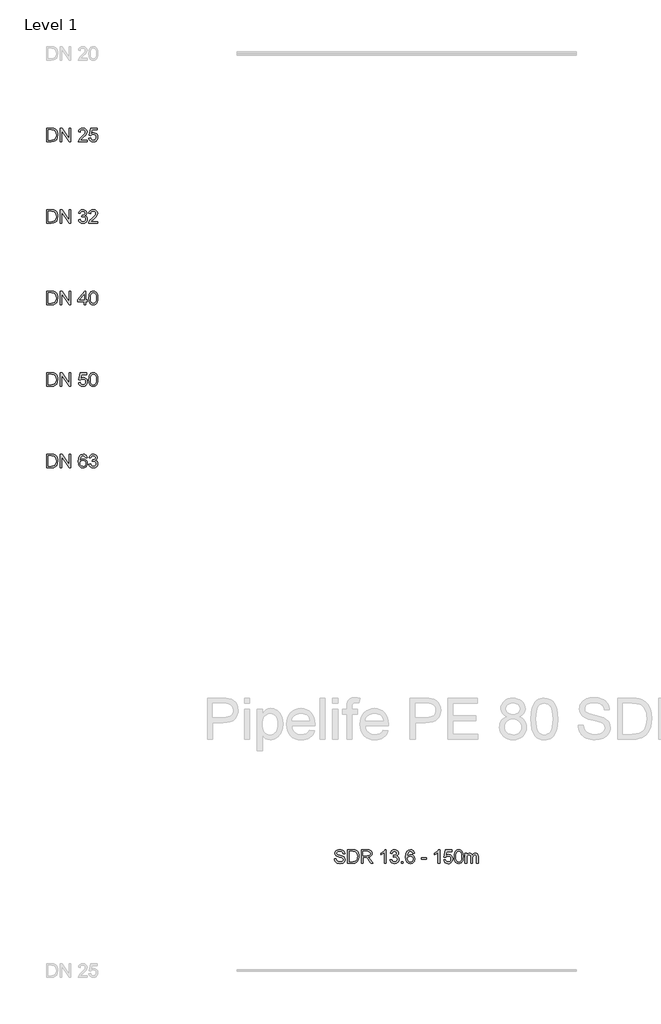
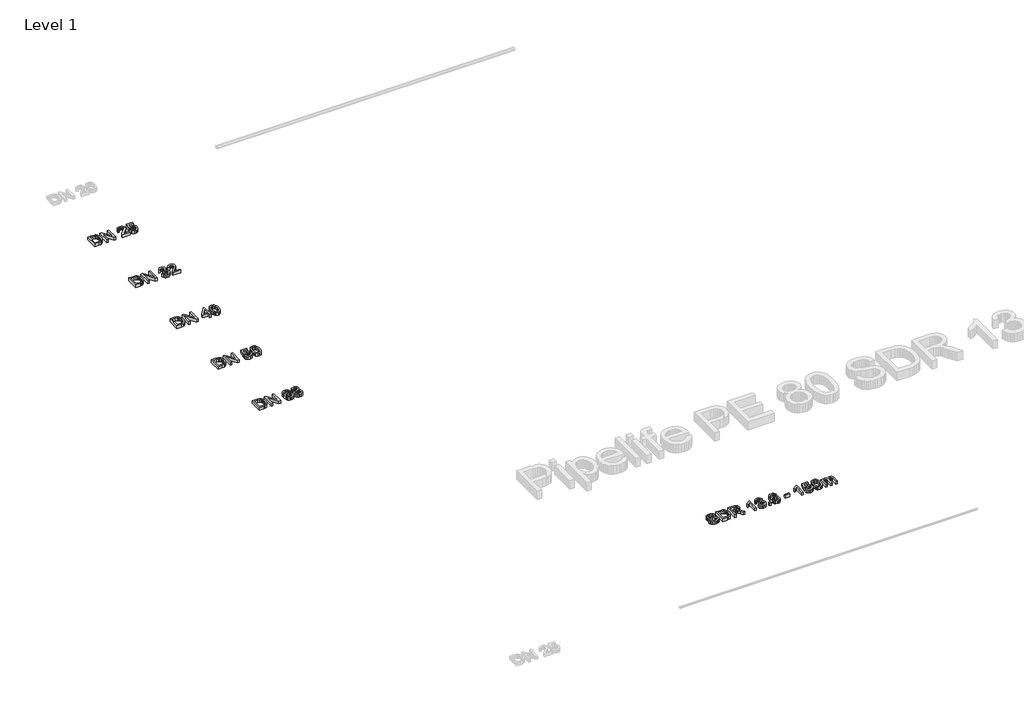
# One storey, part 2 of 6: 6 proxies.
"""IFC4 building model written with IfcOpenShell, lengths in millimetres."""

from ifc_helpers import new_model, si_unit, origin, origin_with_axes, place, context, project, spatial, polyline, outline, extrude, element, save

model = new_model("IFC4")

# Units and contexts
model_context = context("Model", 3, world=origin())
ifc_project = project(units=[si_unit("LENGTHUNIT", "METRE", prefix="MILLI")], contexts=[model_context])

# Site, building, storey
site = spatial("IfcSite", under=ifc_project)
building = spatial("IfcBuilding", under=site)
storey = spatial("IfcBuildingStorey", under=building, Name="Level 1", Elevation=0.0)

# Proxies
placement = place(None, origin())
element("IfcBuildingElementProxy", 1, Name="200mm Arial", ObjectType="200mm Arial", at=placement, inside=storey, context=model_context, shape_type="SweptSolid", body=[
    extrude(outline(polyline([(-19337.4878779, -1913.949573), (-19337.4878779, -1713.0369527), (-19268.17891, -1713.0369527), (-19232.3226782, -1715.9309577), (-19216.3075487, -1721.5105013), (-19202.7940167, -1730.302881), (-19188.90034, -1745.606772), (-19179.0043144, -1764.6385338), (-19173.0814143, -1787.0302846), (-19171.1071142, -1812.4141423), (-19176.4536659, -1852.9547382), (-19190.187927, -1882.2136195), (-19208.5329759, -1900.436041), (-19232.5434074, -1910.5160077), (-19264.8434466, -1913.949573), (-19337.4878779, -1913.949573)]), holes=[polyline([(-19312.3738004, -1888.8354954), (-19267.9336553, -1888.8354954), (-19235.6090907, -1885.2057264), (-19216.9697363, -1874.9540815), (-19208.2448016, -1864.0831685), (-19201.6903707, -1850.0116822), (-19197.5884865, -1832.6783089), (-19196.2211917, -1812.0217348), (-19198.9005989, -1784.6513144), (-19206.9388205, -1764.4423301), (-19218.8152776, -1750.5609162), (-19233.0093913, -1742.1732067), (-19268.6203684, -1738.1510302), (-19312.3738004, -1738.1510302), (-19312.3738004, -1888.8354954)])]), origin_with_axes(), (0.0, 0.0, 1.0), 50.0),
    extrude(outline(polyline([(-19136.5752576, -1913.949573), (-19136.5752576, -1713.0369527), (-19109.6953465, -1713.0369527), (-19004.7263505, -1872.2072292), (-19004.7263505, -1713.0369527), (-18979.612273, -1713.0369527), (-18979.612273, -1913.949573), (-19006.4921841, -1913.949573), (-19111.4611801, -1754.7302454), (-19111.4611801, -1913.949573), (-19136.5752576, -1913.949573)])), origin_with_axes(), (0.0, 0.0, 1.0), 50.0),
    extrude(outline(polyline([(-18866.5989241, -1860.5821582), (-18841.4848465, -1857.4428985), (-18835.8623834, -1873.2250361), (-18827.627958, -1883.8813512), (-18816.3769004, -1889.9514041), (-18801.7045401, -1891.9747551), (-18784.4876627, -1889.1911147), (-18771.19486, -1880.8401934), (-18762.6967859, -1868.3812565), (-18759.8640945, -1853.2735692), (-18762.6722604, -1838.9323028), (-18771.0967581, -1827.3011004), (-18783.8500006, -1819.5939726), (-18799.6444009, -1817.02493), (-18817.2536858, -1819.7717822), (-18814.4577826, -1794.6577047), (-18810.4356061, -1794.9520102), (-18795.3892325, -1793.1493885), (-18781.9370142, -1787.7415231), (-18772.4456588, -1778.5935242), (-18769.2818736, -1765.5705016), (-18771.5750047, -1754.7241141), (-18778.454398, -1745.925603), (-18788.9512976, -1740.0946734), (-18802.0969476, -1738.1510302), (-18815.267123, -1740.1130675), (-18826.0338027, -1745.9991794), (-18833.8942147, -1755.809366), (-18838.3455868, -1769.5436271), (-18863.4596644, -1766.4043674), (-18856.0652363, -1743.8532011), (-18842.9073236, -1727.0164685), (-18824.9056313, -1716.5318316), (-18802.9798644, -1713.0369527), (-18787.1915954, -1714.7598667), (-18772.6909134, -1719.9286087), (-18760.4649685, -1728.0833263), (-18751.5009105, -1738.7641669), (-18746.0010747, -1751.0698196), (-18744.1677961, -1764.0989736), (-18745.9091042, -1776.2390794), (-18751.1330285, -1787.2510138), (-18759.7659927, -1796.6320047), (-18771.7344202, -1803.87928), (-18756.0135963, -1810.2313758), (-18744.3639998, -1821.0471064), (-18737.1535127, -1835.7378608), (-18734.750017, -1853.7150276), (-18739.5570084, -1878.191443), (-18753.9779826, -1898.645682), (-18775.744334, -1912.478045), (-18802.5874569, -1917.0888326), (-18826.8676686, -1913.1524953), (-18846.6351945, -1901.3434833), (-18860.3817184, -1883.2804773), (-18866.5989241, -1860.5821582)])), origin_with_axes(), (0.0, 0.0, 1.0), 50.0),
    extrude(outline(polyline([(-18584.0655518, -1888.8354954), (-18584.0655518, -1913.949573), (-18715.9144588, -1913.949573), (-18713.2166575, -1896.6345937), (-18697.9618175, -1869.9754118), (-18666.5201696, -1840.8636832), (-18623.1591451, -1799.0232377), (-18615.028953, -1784.6022634), (-18612.318889, -1770.5736967), (-18614.8756689, -1757.9982638), (-18622.5460085, -1747.5442838), (-18634.3366264, -1740.4993436), (-18649.2542413, -1738.1510302), (-18664.9198829, -1740.4441613), (-18677.0906456, -1747.3235546), (-18684.9449262, -1758.2496499), (-18687.6611216, -1772.6828868), (-18712.7751992, -1769.5436271), (-18706.6867521, -1745.2511527), (-18693.5227081, -1727.5069778), (-18673.96978, -1716.6544589), (-18648.7146811, -1713.0369527), (-18623.2756411, -1717.0591291), (-18603.7595012, -1729.1256586), (-18591.3434839, -1747.1518763), (-18587.2048115, -1769.0531178), (-18591.6684463, -1792.8673456), (-18606.5063535, -1817.4909138), (-18642.4852126, -1851.9001431), (-18671.376212, -1876.0577275), (-18682.7069774, -1888.8354954), (-18584.0655518, -1888.8354954)])), origin_with_axes(), (0.0, 0.0, 1.0), 50.0),
])
element("IfcBuildingElementProxy", 2, Name="200mm Arial", ObjectType="200mm Arial", at=placement, inside=storey, context=model_context, shape_type="SweptSolid", body=[
    extrude(outline(polyline([(-19337.4878779, -3113.949573), (-19337.4878779, -2913.0369527), (-19268.17891, -2913.0369527), (-19232.3226782, -2915.9309577), (-19216.3075487, -2921.5105013), (-19202.7940167, -2930.302881), (-19188.90034, -2945.606772), (-19179.0043144, -2964.6385338), (-19173.0814143, -2987.0302846), (-19171.1071142, -3012.4141423), (-19176.4536659, -3052.9547382), (-19190.187927, -3082.2136195), (-19208.5329759, -3100.436041), (-19232.5434074, -3110.5160077), (-19264.8434466, -3113.949573), (-19337.4878779, -3113.949573)]), holes=[polyline([(-19312.3738004, -3088.8354954), (-19267.9336553, -3088.8354954), (-19235.6090907, -3085.2057264), (-19216.9697363, -3074.9540815), (-19208.2448016, -3064.0831685), (-19201.6903707, -3050.0116822), (-19197.5884865, -3032.6783089), (-19196.2211917, -3012.0217348), (-19198.9005989, -2984.6513144), (-19206.9388205, -2964.4423301), (-19218.8152776, -2950.5609162), (-19233.0093913, -2942.1732067), (-19268.6203684, -2938.1510302), (-19312.3738004, -2938.1510302), (-19312.3738004, -3088.8354954)])]), origin_with_axes(), (0.0, 0.0, 1.0), 50.0),
    extrude(outline(polyline([(-19136.5752576, -3113.949573), (-19136.5752576, -2913.0369527), (-19109.6953465, -2913.0369527), (-19004.7263505, -3072.2072292), (-19004.7263505, -2913.0369527), (-18979.612273, -2913.0369527), (-18979.612273, -3113.949573), (-19006.4921841, -3113.949573), (-19111.4611801, -2954.7302454), (-19111.4611801, -3113.949573), (-19136.5752576, -3113.949573)])), origin_with_axes(), (0.0, 0.0, 1.0), 50.0),
    extrude(outline(polyline([(-18784.9781721, -3113.949573), (-18784.9781721, -3066.8606776), (-18876.0167031, -3066.8606776), (-18876.0167031, -3041.7466), (-18778.6996527, -2916.1762123), (-18759.8640945, -2916.1762123), (-18759.8640945, -3041.7466), (-18734.750017, -3041.7466), (-18734.750017, -3066.8606776), (-18759.8640945, -3066.8606776), (-18759.8640945, -3113.949573), (-18784.9781721, -3113.949573)]), holes=[polyline([(-18784.9781721, -3041.7466), (-18784.9781721, -2964.1480245), (-18845.1146156, -3041.7466), (-18784.9781721, -3041.7466)])]), origin_with_axes(), (0.0, 0.0, 1.0), 50.0),
    extrude(outline(polyline([(-18712.7751992, -3015.1119436), (-18710.9296578, -2982.9529258), (-18705.3930338, -2957.3054194), (-18696.2205094, -2937.7770168), (-18683.4672669, -2923.9753106), (-18667.0413358, -2915.7715422), (-18646.8507456, -2913.0369527), (-18631.3751764, -2914.6556334), (-18617.5182879, -2919.5116758), (-18605.930005, -2927.4150073), (-18597.2602527, -2938.1755557), (-18585.4880288, -2967.9004209), (-18580.9262921, -3015.1119436), (-18582.7534393, -3047.0870203), (-18588.2348811, -3072.6732131), (-18597.3522232, -3092.2200098), (-18610.0870716, -3106.0768983), (-18626.5497909, -3114.335849), (-18646.8507456, -3117.0888326), (-18672.9458418, -3112.3063667), (-18692.7624186, -3097.9589689), (-18701.5180101, -3082.8298218), (-18707.772004, -3063.9789353), (-18712.7751992, -3015.1119436)]), holes=[polyline([(-18687.6611216, -3015.0628927), (-18684.7180657, -3054.5672876), (-18675.8888978, -3077.4311536), (-18662.7432478, -3088.3388547), (-18646.8507456, -3091.9747551), (-18630.9582434, -3088.326592), (-18617.8125935, -3077.3821026), (-18608.9834256, -3054.5059739), (-18606.0403696, -3015.0628927), (-18608.8853237, -2976.4475459), (-18617.420186, -2953.4058703), (-18630.5413105, -2941.9647402), (-18647.1450512, -2938.1510302), (-18662.8658751, -2941.5110191), (-18675.4964903, -2951.5909857), (-18684.6199638, -2976.0674012), (-18687.6611216, -3015.0628927)])]), origin_with_axes(), (0.0, 0.0, 1.0), 50.0),
])
element("IfcBuildingElementProxy", 3, Name="200mm Arial", ObjectType="200mm Arial", at=placement, inside=storey, context=model_context, shape_type="SweptSolid", body=[
    extrude(outline(polyline([(-19337.4878779, -4313.949573), (-19337.4878779, -4113.0369527), (-19268.17891, -4113.0369527), (-19232.3226782, -4115.9309577), (-19216.3075487, -4121.5105013), (-19202.7940167, -4130.302881), (-19188.90034, -4145.606772), (-19179.0043144, -4164.6385338), (-19173.0814143, -4187.0302846), (-19171.1071142, -4212.4141423), (-19176.4536659, -4252.9547382), (-19190.187927, -4282.2136195), (-19208.5329759, -4300.436041), (-19232.5434074, -4310.5160077), (-19264.8434466, -4313.949573), (-19337.4878779, -4313.949573)]), holes=[polyline([(-19312.3738004, -4288.8354954), (-19267.9336553, -4288.8354954), (-19235.6090907, -4285.2057264), (-19216.9697363, -4274.9540815), (-19208.2448016, -4264.0831685), (-19201.6903707, -4250.0116822), (-19197.5884865, -4232.6783089), (-19196.2211917, -4212.0217348), (-19198.9005989, -4184.6513144), (-19206.9388205, -4164.4423301), (-19218.8152776, -4150.5609162), (-19233.0093913, -4142.1732067), (-19268.6203684, -4138.1510302), (-19312.3738004, -4138.1510302), (-19312.3738004, -4288.8354954)])]), origin_with_axes(), (0.0, 0.0, 1.0), 50.0),
    extrude(outline(polyline([(-19136.5752576, -4313.949573), (-19136.5752576, -4113.0369527), (-19109.6953465, -4113.0369527), (-19004.7263505, -4272.2072292), (-19004.7263505, -4113.0369527), (-18979.612273, -4113.0369527), (-18979.612273, -4313.949573), (-19006.4921841, -4313.949573), (-19111.4611801, -4154.7302454), (-19111.4611801, -4313.949573), (-19136.5752576, -4313.949573)])), origin_with_axes(), (0.0, 0.0, 1.0), 50.0),
    extrude(outline(polyline([(-18866.5989241, -4260.5821582), (-18841.4848465, -4257.4428985), (-18836.8740589, -4272.5199289), (-18828.8297059, -4283.3172655), (-18817.3885758, -4289.8103827), (-18802.5874569, -4291.9747551), (-18784.5857646, -4288.9642541), (-18771.0967581, -4279.9327511), (-18762.6722604, -4265.9225785), (-18759.8640945, -4247.9760685), (-18762.4944508, -4231.0780222), (-18770.3855196, -4218.1531014), (-18783.5986146, -4209.9493329), (-18802.1950494, -4207.2147434), (-18824.2434437, -4211.5802764), (-18838.3455868, -4222.9110419), (-18863.4596644, -4219.7717822), (-18841.4848465, -4116.1762123), (-18744.1677961, -4116.1762123), (-18744.1677961, -4141.2902899), (-18821.1777604, -4141.2902899), (-18831.9199147, -4196.619742), (-18813.979536, -4185.7304349), (-18795.1807661, -4182.1006659), (-18771.7160261, -4186.601089), (-18752.2366745, -4200.1023582), (-18739.1216814, -4220.6792244), (-18734.750017, -4246.4064386), (-18738.6863543, -4271.5205162), (-18750.4953664, -4293.0048247), (-18760.9309523, -4303.5415782), (-18773.1078464, -4311.0678307), (-18787.0260485, -4315.5835821), (-18802.6855588, -4317.0888326), (-18827.3520466, -4313.2199403), (-18847.0030765, -4301.6132634), (-18860.4736888, -4283.6177025), (-18866.5989241, -4260.5821582)])), origin_with_axes(), (0.0, 0.0, 1.0), 50.0),
    extrude(outline(polyline([(-18712.7751992, -4215.1119436), (-18710.9296578, -4182.9529258), (-18705.3930338, -4157.3054194), (-18696.2205094, -4137.7770168), (-18683.4672669, -4123.9753106), (-18667.0413358, -4115.7715422), (-18646.8507456, -4113.0369527), (-18631.3751764, -4114.6556334), (-18617.5182879, -4119.5116758), (-18605.930005, -4127.4150073), (-18597.2602527, -4138.1755557), (-18585.4880288, -4167.9004209), (-18580.9262921, -4215.1119436), (-18582.7534393, -4247.0870203), (-18588.2348811, -4272.6732131), (-18597.3522232, -4292.2200098), (-18610.0870716, -4306.0768983), (-18626.5497909, -4314.335849), (-18646.8507456, -4317.0888326), (-18672.9458418, -4312.3063667), (-18692.7624186, -4297.9589689), (-18701.5180101, -4282.8298218), (-18707.772004, -4263.9789353), (-18712.7751992, -4215.1119436)]), holes=[polyline([(-18687.6611216, -4215.0628927), (-18684.7180657, -4254.5672876), (-18675.8888978, -4277.4311536), (-18662.7432478, -4288.3388547), (-18646.8507456, -4291.9747551), (-18630.9582434, -4288.326592), (-18617.8125935, -4277.3821026), (-18608.9834256, -4254.5059739), (-18606.0403696, -4215.0628927), (-18608.8853237, -4176.4475459), (-18617.420186, -4153.4058703), (-18630.5413105, -4141.9647402), (-18647.1450512, -4138.1510302), (-18662.8658751, -4141.5110191), (-18675.4964903, -4151.5909857), (-18684.6199638, -4176.0674012), (-18687.6611216, -4215.0628927)])]), origin_with_axes(), (0.0, 0.0, 1.0), 50.0),
])
element("IfcBuildingElementProxy", 4, Name="200mm Arial", ObjectType="200mm Arial", at=placement, inside=storey, context=model_context, shape_type="SweptSolid", body=[
    extrude(outline(polyline([(-19337.4878779, -5513.949573), (-19337.4878779, -5313.0369527), (-19268.17891, -5313.0369527), (-19232.3226782, -5315.9309577), (-19216.3075487, -5321.5105013), (-19202.7940167, -5330.302881), (-19188.90034, -5345.606772), (-19179.0043144, -5364.6385338), (-19173.0814143, -5387.0302846), (-19171.1071142, -5412.4141423), (-19176.4536659, -5452.9547382), (-19190.187927, -5482.2136195), (-19208.5329759, -5500.436041), (-19232.5434074, -5510.5160077), (-19264.8434466, -5513.949573), (-19337.4878779, -5513.949573)]), holes=[polyline([(-19312.3738004, -5488.8354954), (-19267.9336553, -5488.8354954), (-19235.6090907, -5485.2057264), (-19216.9697363, -5474.9540815), (-19208.2448016, -5464.0831685), (-19201.6903707, -5450.0116822), (-19197.5884865, -5432.6783089), (-19196.2211917, -5412.0217348), (-19198.9005989, -5384.6513144), (-19206.9388205, -5364.4423301), (-19218.8152776, -5350.5609162), (-19233.0093913, -5342.1732067), (-19268.6203684, -5338.1510302), (-19312.3738004, -5338.1510302), (-19312.3738004, -5488.8354954)])]), origin_with_axes(), (0.0, 0.0, 1.0), 50.0),
    extrude(outline(polyline([(-19136.5752576, -5513.949573), (-19136.5752576, -5313.0369527), (-19109.6953465, -5313.0369527), (-19004.7263505, -5472.2072292), (-19004.7263505, -5313.0369527), (-18979.612273, -5313.0369527), (-18979.612273, -5513.949573), (-19006.4921841, -5513.949573), (-19111.4611801, -5354.7302454), (-19111.4611801, -5513.949573), (-19136.5752576, -5513.949573)])), origin_with_axes(), (0.0, 0.0, 1.0), 50.0),
    extrude(outline(polyline([(-18737.8892767, -5366.4043674), (-18763.0033542, -5369.5436271), (-18772.5192352, -5348.5988789), (-18783.9113143, -5340.7629924), (-18797.6823636, -5338.1510302), (-18820.3438945, -5344.2333458), (-18829.7800677, -5353.8411973), (-18837.4871955, -5367.066555), (-18842.6927257, -5385.7733545), (-18844.6241062, -5411.8255311), (-18834.5502709, -5400.0717013), (-18822.4776101, -5391.7882251), (-18809.0805741, -5386.8770005), (-18795.0336133, -5385.2399256), (-18771.8325221, -5389.7158232), (-18752.3593018, -5403.143516), (-18739.1523382, -5423.6590686), (-18734.750017, -5449.3985455), (-18736.8224189, -5467.3818437), (-18743.0396246, -5484.0530295), (-18752.8865994, -5498.1919608), (-18765.8483083, -5508.5784958), (-18781.3361403, -5514.9612484), (-18798.7614842, -5517.0888326), (-18827.2539447, -5511.4479754), (-18849.9461324, -5494.5254036), (-18858.6051549, -5481.4165418), (-18864.7901709, -5464.6533856), (-18869.7381838, -5420.1641897), (-18864.2444793, -5370.144501), (-18857.3773487, -5351.0667539), (-18847.7633659, -5335.9437382), (-18837.3431084, -5325.9220195), (-18825.2612505, -5318.763649), (-18796.1127338, -5313.0369527), (-18774.0766023, -5316.5808825), (-18756.4305292, -5327.2126722), (-18744.0696942, -5344.0984558), (-18737.8892767, -5366.4043674)]), holes=[polyline([(-18844.6241062, -5449.0061381), (-18838.8115707, -5470.7602267), (-18823.3605269, -5486.554627), (-18800.7235215, -5491.9747551), (-18784.1504376, -5489.1665892), (-18771.1212836, -5480.7420915), (-18762.6783918, -5467.4983397), (-18759.8640945, -5450.2324114), (-18762.6416036, -5433.6593275), (-18770.9741308, -5421.022581), (-18784.224014, -5413.0211476), (-18801.7535911, -5410.3540031), (-18818.3021495, -5413.0211476), (-18832.1406439, -5421.022581), (-18841.5032406, -5433.3527592), (-18844.6241062, -5449.0061381)])]), origin_with_axes(), (0.0, 0.0, 1.0), 50.0),
    extrude(outline(polyline([(-18712.7751992, -5460.5821582), (-18687.6611216, -5457.4428985), (-18682.0386585, -5473.2250361), (-18673.8042331, -5483.8813512), (-18662.5531754, -5489.9514041), (-18647.8808152, -5491.9747551), (-18630.6639378, -5489.1911147), (-18617.3711351, -5480.8401934), (-18608.873061, -5468.3812565), (-18606.0403696, -5453.2735692), (-18608.8485355, -5438.9323028), (-18617.2730332, -5427.3011004), (-18630.0262757, -5419.5939726), (-18645.820676, -5417.02493), (-18663.4299609, -5419.7717822), (-18660.6340577, -5394.6577047), (-18656.6118812, -5394.9520102), (-18641.5655076, -5393.1493885), (-18628.1132893, -5387.7415231), (-18618.6219339, -5378.5935242), (-18615.4581487, -5365.5705016), (-18617.7512798, -5354.7241141), (-18624.6306731, -5345.925603), (-18635.1275727, -5340.0946734), (-18648.2732227, -5338.1510302), (-18661.4433981, -5340.1130675), (-18672.2100778, -5345.9991794), (-18680.0704898, -5355.809366), (-18684.5218619, -5369.5436271), (-18709.6359395, -5366.4043674), (-18702.2415114, -5343.8532011), (-18689.0835987, -5327.0164685), (-18671.0819064, -5316.5318316), (-18649.1561395, -5313.0369527), (-18633.3678705, -5314.7598667), (-18618.8671885, -5319.9286087), (-18606.6412435, -5328.0833263), (-18597.6771856, -5338.7641669), (-18592.1773498, -5351.0698196), (-18590.3440712, -5364.0989736), (-18592.0853793, -5376.2390794), (-18597.3093036, -5387.2510138), (-18605.9422678, -5396.6320047), (-18617.9106953, -5403.87928), (-18602.1898714, -5410.2313758), (-18590.5402749, -5421.0471064), (-18583.3297878, -5435.7378608), (-18580.9262921, -5453.7150276), (-18585.7332835, -5478.191443), (-18600.1542577, -5498.645682), (-18621.9206091, -5512.478045), (-18648.763732, -5517.0888326), (-18673.0439437, -5513.1524953), (-18692.8114695, -5501.3434833), (-18706.5579934, -5483.2804773), (-18712.7751992, -5460.5821582)])), origin_with_axes(), (0.0, 0.0, 1.0), 50.0),
])
element("IfcBuildingElementProxy", 5, Name="200mm Arial", ObjectType="200mm Arial", at=placement, inside=storey, context=model_context, shape_type="SweptSolid", body=[
    extrude(outline(polyline([(-19337.4878779, -713.949573), (-19337.4878779, -513.0369527), (-19268.17891, -513.0369527), (-19232.3226782, -515.9309577), (-19216.3075487, -521.5105013), (-19202.7940167, -530.302881), (-19188.90034, -545.606772), (-19179.0043144, -564.6385338), (-19173.0814143, -587.0302846), (-19171.1071142, -612.4141423), (-19176.4536659, -652.9547382), (-19190.187927, -682.2136195), (-19208.5329759, -700.436041), (-19232.5434074, -710.5160077), (-19264.8434466, -713.949573), (-19337.4878779, -713.949573)]), holes=[polyline([(-19312.3738004, -688.8354954), (-19267.9336553, -688.8354954), (-19235.6090907, -685.2057264), (-19216.9697363, -674.9540815), (-19208.2448016, -664.0831685), (-19201.6903707, -650.0116822), (-19197.5884865, -632.6783089), (-19196.2211917, -612.0217348), (-19198.9005989, -584.6513144), (-19206.9388205, -564.4423301), (-19218.8152776, -550.5609162), (-19233.0093913, -542.1732067), (-19268.6203684, -538.1510302), (-19312.3738004, -538.1510302), (-19312.3738004, -688.8354954)])]), origin_with_axes(), (0.0, 0.0, 1.0), 50.0),
    extrude(outline(polyline([(-19136.5752576, -713.949573), (-19136.5752576, -513.0369527), (-19109.6953465, -513.0369527), (-19004.7263505, -672.2072292), (-19004.7263505, -513.0369527), (-18979.612273, -513.0369527), (-18979.612273, -713.949573), (-19006.4921841, -713.949573), (-19111.4611801, -554.7302454), (-19111.4611801, -713.949573), (-19136.5752576, -713.949573)])), origin_with_axes(), (0.0, 0.0, 1.0), 50.0),
    extrude(outline(polyline([(-18737.8892767, -688.8354954), (-18737.8892767, -713.949573), (-18869.7381838, -713.949573), (-18867.0403825, -696.6345937), (-18851.7855424, -669.9754118), (-18820.3438945, -640.8636832), (-18776.98287, -599.0232377), (-18768.852678, -584.6022634), (-18766.1426139, -570.5736967), (-18768.6993938, -557.9982638), (-18776.3697334, -547.5442838), (-18788.1603513, -540.4993436), (-18803.0779662, -538.1510302), (-18818.7436079, -540.4441613), (-18830.9143705, -547.3235546), (-18838.7686511, -558.2496499), (-18841.4848465, -572.6828868), (-18866.5989241, -569.5436271), (-18860.510477, -545.2511527), (-18847.346433, -527.5069778), (-18827.7935049, -516.6544589), (-18802.538406, -513.0369527), (-18777.099366, -517.0591291), (-18757.5832262, -529.1256586), (-18745.1672088, -547.1518763), (-18741.0285364, -569.0531178), (-18745.4921713, -592.8673456), (-18760.3300784, -617.4909138), (-18796.3089375, -651.9001431), (-18825.1999369, -676.0577275), (-18836.5307023, -688.8354954), (-18737.8892767, -688.8354954)])), origin_with_axes(), (0.0, 0.0, 1.0), 50.0),
    extrude(outline(polyline([(-18712.7751992, -660.5821582), (-18687.6611216, -657.4428985), (-18683.0503339, -672.5199289), (-18675.005981, -683.3172655), (-18663.5648509, -689.8103827), (-18648.763732, -691.9747551), (-18630.7620397, -688.9642541), (-18617.2730332, -679.9327511), (-18608.8485355, -665.9225785), (-18606.0403696, -647.9760685), (-18608.6707259, -631.0780222), (-18616.5617947, -618.1531014), (-18629.7748897, -609.9493329), (-18648.3713245, -607.2147434), (-18670.4197188, -611.5802764), (-18684.5218619, -622.9110419), (-18709.6359395, -619.7717822), (-18687.6611216, -516.1762123), (-18590.3440712, -516.1762123), (-18590.3440712, -541.2902899), (-18667.3540355, -541.2902899), (-18678.0961897, -596.619742), (-18660.1558111, -585.7304349), (-18641.3570412, -582.1006659), (-18617.8923012, -586.601089), (-18598.4129496, -600.1023582), (-18585.2979565, -620.6792244), (-18580.9262921, -646.4064386), (-18584.8626294, -671.5205162), (-18596.6716415, -693.0048247), (-18607.1072274, -703.5415782), (-18619.2841214, -711.0678307), (-18633.2023236, -715.5835821), (-18648.8618339, -717.0888326), (-18673.5283216, -713.2199403), (-18693.1793515, -701.6132634), (-18706.6499639, -683.6177025), (-18712.7751992, -660.5821582)])), origin_with_axes(), (0.0, 0.0, 1.0), 50.0),
])
element("IfcBuildingElementProxy", 6, Name="200mm Arial", ObjectType="200mm Arial", at=placement, inside=storey, context=model_context, shape_type="SweptSolid", body=[
    extrude(outline(polyline([(-15095.306531, -11268.9871574), (-15070.1924535, -11268.9871574), (-15062.0990496, -11294.1257604), (-15053.9688575, -11303.016242), (-15042.3315237, -11310.0182626), (-15028.1067532, -11314.5616053), (-15012.214251, -11316.0760528), (-14985.9720021, -11311.4897906), (-14969.0249048, -11298.8837009), (-14963.4576239, -11282.0347055), (-14967.6269532, -11266.3629325), (-14973.979049, -11260.1641209), (-14984.6966778, -11254.9585907), (-15021.2641481, -11245.3691333), (-15060.6275216, -11232.9837728), (-15073.1293781, -11224.5347497), (-15081.9892028, -11214.2953675), (-15087.2683094, -11202.4863554), (-15089.0280116, -11189.3284427), (-15086.8513765, -11174.6192943), (-15080.3214711, -11160.9034272), (-15069.6099737, -11149.2783562), (-15054.8885625, -11140.8415958), (-15037.217964, -11135.7096419), (-15017.6589046, -11133.9989907), (-14996.4689016, -11135.7893497), (-14977.9276491, -11141.1604268), (-14962.6973345, -11150.0018575), (-14951.4401454, -11162.203277), (-14944.3154975, -11177.0043959), (-14941.4828061, -11193.6449248), (-14966.5968836, -11193.6449248), (-14971.2076713, -11178.6598649), (-14980.8216541, -11167.8441342), (-14995.8435023, -11161.2958347), (-15016.6778859, -11159.1130682), (-15038.0027789, -11161.2713092), (-15052.6322196, -11167.7460324), (-15061.0935055, -11177.274176), (-15063.9139341, -11188.5926788), (-15061.9151086, -11198.2434498), (-15055.9186321, -11206.0057599), (-15041.7429125, -11212.9464668), (-15014.9120523, -11220.0343266), (-14970.4719073, -11232.6404163), (-14956.1551663, -11241.7516271), (-14946.1671702, -11252.9965534), (-14940.2994523, -11266.2525679), (-14938.3435464, -11281.3970434), (-14940.5937579, -11296.878744), (-14947.3443926, -11311.4407397), (-14958.3195387, -11323.973253), (-14973.243285, -11333.3665066), (-14991.189795, -11339.2342244), (-15011.2332324, -11341.1901304), (-15035.8384065, -11339.0809402), (-15056.0903103, -11332.7533699), (-15072.2219358, -11322.1828939), (-15084.4662749, -11307.3449868), (-15092.3266869, -11289.2697181), (-15095.306531, -11268.9871574)])), origin_with_axes(), (0.0, 0.0, 1.0), 50.0),
    extrude(outline(polyline([(-14900.6724301, -11338.0508707), (-14900.6724301, -11137.1382504), (-14831.3634622, -11137.1382504), (-14795.5072304, -11140.0322554), (-14779.4921009, -11145.611799), (-14765.9785689, -11154.4041787), (-14752.0848923, -11169.7080697), (-14742.1888666, -11188.7398315), (-14736.2659665, -11211.1315823), (-14734.2916664, -11236.51544), (-14739.6382181, -11277.0560359), (-14753.3724792, -11306.3149172), (-14771.7175281, -11324.5373387), (-14795.7279596, -11334.6173054), (-14828.0279988, -11338.0508707), (-14900.6724301, -11338.0508707)]), holes=[polyline([(-14875.5583526, -11312.9367931), (-14831.1182075, -11312.9367931), (-14798.7936429, -11309.3070241), (-14780.1542885, -11299.0553792), (-14771.4293538, -11288.1844662), (-14764.8749229, -11274.1129799), (-14760.7730387, -11256.7796066), (-14759.405744, -11236.1230325), (-14762.0851512, -11208.7526121), (-14770.1233727, -11188.5436278), (-14781.9998298, -11174.6622139), (-14796.1939435, -11166.2745044), (-14831.8049206, -11162.2523279), (-14875.5583526, -11162.2523279), (-14875.5583526, -11312.9367931)])]), origin_with_axes(), (0.0, 0.0, 1.0), 50.0),
    extrude(outline(polyline([(-14699.7598098, -11338.0508707), (-14699.7598098, -11137.1382504), (-14613.1849136, -11137.1382504), (-14589.9163774, -11138.4932824), (-14572.9876743, -11142.5583784), (-14560.6145765, -11150.0631711), (-14551.0128564, -11161.7372931), (-14544.850833, -11176.2134496), (-14542.7968252, -11192.1243459), (-14546.1997336, -11211.9163972), (-14556.408459, -11228.3239342), (-14573.7295696, -11240.3536755), (-14598.4696338, -11247.0123396), (-14584.1958124, -11257.7544938), (-14563.8396753, -11283.6043354), (-14530.3378883, -11338.0508707), (-14559.5231932, -11338.0508707), (-14585.6673404, -11296.4066288), (-14604.5519495, -11268.8400046), (-14617.8202267, -11255.816982), (-14629.7641289, -11251.0345161), (-14644.3322559, -11250.1515993), (-14674.6457323, -11250.1515993), (-14674.6457323, -11338.0508707), (-14699.7598098, -11338.0508707)]), holes=[polyline([(-14674.6457323, -11225.0375217), (-14618.4333634, -11225.0375217), (-14589.7630932, -11221.4813291), (-14580.3330514, -11216.8582787), (-14573.4781836, -11210.1015127), (-14567.9109027, -11193.0563136), (-14570.5657845, -11180.8058432), (-14578.5304297, -11170.934343), (-14592.234034, -11164.4228317), (-14612.1057931, -11162.2523279), (-14674.6457323, -11162.2523279), (-14674.6457323, -11225.0375217)])]), origin_with_axes(), (0.0, 0.0, 1.0), 50.0),
    extrude(outline(polyline([(-14335.6056855, -11338.0508707), (-14360.719763, -11338.0508707), (-14360.719763, -11181.4802935), (-14384.5094654, -11198.4273908), (-14410.9479181, -11211.1070569), (-14410.9479181, -11187.3664054), (-14374.1351931, -11163.8710087), (-14360.6645807, -11150.2961631), (-14351.7924933, -11137.1382504), (-14335.6056855, -11137.1382504), (-14335.6056855, -11338.0508707)])), origin_with_axes(), (0.0, 0.0, 1.0), 50.0),
    extrude(outline(polyline([(-14275.9597514, -11284.6834559), (-14250.8456738, -11281.5441962), (-14245.2232107, -11297.3263338), (-14236.9887853, -11307.9826489), (-14225.7377277, -11314.0527018), (-14211.0653674, -11316.0760528), (-14193.84849, -11313.2924124), (-14180.5556873, -11304.9414911), (-14172.0576132, -11292.4825542), (-14169.2249218, -11277.3748669), (-14172.0330877, -11263.0336005), (-14180.4575854, -11251.4023981), (-14193.2108279, -11243.6952703), (-14209.0052282, -11241.1262277), (-14226.6145131, -11243.8730799), (-14223.8186099, -11218.7590024), (-14219.7964334, -11219.053308), (-14204.7500598, -11217.2506862), (-14191.2978415, -11211.8428208), (-14181.8064861, -11202.6948219), (-14178.6427009, -11189.6717993), (-14180.935832, -11178.8254118), (-14187.8152253, -11170.0269007), (-14198.3121249, -11164.1959711), (-14211.4577749, -11162.2523279), (-14224.6279503, -11164.2143652), (-14235.39463, -11170.1004771), (-14243.255042, -11179.9106637), (-14247.7064141, -11193.6449248), (-14272.8204917, -11190.5056651), (-14265.4260636, -11167.9544988), (-14252.2681509, -11151.1177662), (-14234.2664586, -11140.6331293), (-14212.3406917, -11137.1382504), (-14196.5524227, -11138.8611644), (-14182.0517407, -11144.0299064), (-14169.8257958, -11152.184624), (-14160.8617378, -11162.8654646), (-14155.361902, -11175.1711173), (-14153.5286234, -11188.2002713), (-14155.2699315, -11200.3403771), (-14160.4938558, -11211.3523115), (-14169.12682, -11220.7333024), (-14181.0952475, -11227.9805777), (-14165.3744236, -11234.3326735), (-14153.7248271, -11245.1484041), (-14146.51434, -11259.8391585), (-14144.1108443, -11277.8163253), (-14148.9178357, -11302.2927407), (-14163.3388099, -11322.7469797), (-14185.1051613, -11336.5793427), (-14211.9482842, -11341.1901304), (-14236.2284959, -11337.253793), (-14255.9960218, -11325.444781), (-14269.7425456, -11307.381775), (-14275.9597514, -11284.6834559)])), origin_with_axes(), (0.0, 0.0, 1.0), 50.0),
    extrude(outline(polyline([(-14109.5789877, -11338.0508707), (-14109.5789877, -11312.9367931), (-14084.4649101, -11312.9367931), (-14084.4649101, -11338.0508707), (-14109.5789877, -11338.0508707)])), origin_with_axes(), (0.0, 0.0, 1.0), 50.0),
    extrude(outline(polyline([(-13914.9448868, -11190.5056651), (-13940.0589643, -11193.6449248), (-13949.5748452, -11172.7001766), (-13960.9669244, -11164.8642901), (-13974.7379737, -11162.2523279), (-13997.3995046, -11168.3346435), (-14006.8356778, -11177.942495), (-14014.5428056, -11191.1678527), (-14019.7483358, -11209.8746522), (-14021.6797163, -11235.9268288), (-14011.605881, -11224.1729991), (-13999.5332202, -11215.8895228), (-13986.1361842, -11210.9782982), (-13972.0892233, -11209.3412233), (-13948.8881322, -11213.8171209), (-13929.4149119, -11227.2448137), (-13916.2079483, -11247.7603663), (-13911.8056271, -11273.4998432), (-13913.878029, -11291.4831414), (-13920.0952347, -11308.1543272), (-13929.9422094, -11322.2932585), (-13942.9039184, -11332.6797935), (-13958.3917504, -11339.0625461), (-13975.8170942, -11341.1901304), (-14004.3095548, -11335.5492731), (-14027.0017425, -11318.6267013), (-14035.660765, -11305.5178396), (-14041.845781, -11288.7546833), (-14046.7937938, -11244.2654874), (-14041.3000894, -11194.2457987), (-14034.4329588, -11175.1680516), (-14024.818976, -11160.0450359), (-14014.3987185, -11150.0233172), (-14002.3168606, -11142.8649468), (-13973.1683439, -11137.1382504), (-13951.1322124, -11140.6821802), (-13933.4861393, -11151.3139699), (-13921.1253043, -11168.1997535), (-13914.9448868, -11190.5056651)]), holes=[polyline([(-14021.6797163, -11273.1074358), (-14015.8671808, -11294.8615244), (-14000.416137, -11310.6559248), (-13977.7791315, -11316.0760528), (-13961.2060477, -11313.2678869), (-13948.1768937, -11304.8433892), (-13939.7340019, -11291.5996374), (-13936.9197046, -11274.3337091), (-13939.6972137, -11257.7606252), (-13948.0297409, -11245.1238787), (-13961.2796241, -11237.1224453), (-13978.8092011, -11234.4553008), (-13995.3577595, -11237.1224453), (-14009.1962539, -11245.1238787), (-14018.5588507, -11257.4540569), (-14021.6797163, -11273.1074358)])]), origin_with_axes(), (0.0, 0.0, 1.0), 50.0),
    extrude(outline(polyline([(-13817.6278363, -11278.4049365), (-13817.6278363, -11253.290859), (-13739.146344, -11253.290859), (-13739.146344, -11278.4049365), (-13817.6278363, -11278.4049365)])), origin_with_axes(), (0.0, 0.0, 1.0), 50.0),
    extrude(outline(polyline([(-13544.5122431, -11338.0508707), (-13569.6263206, -11338.0508707), (-13569.6263206, -11181.4802935), (-13593.416023, -11198.4273908), (-13619.8544757, -11211.1070569), (-13619.8544757, -11187.3664054), (-13583.0417507, -11163.8710087), (-13569.5711383, -11150.2961631), (-13560.6990509, -11137.1382504), (-13544.5122431, -11137.1382504), (-13544.5122431, -11338.0508707)])), origin_with_axes(), (0.0, 0.0, 1.0), 50.0),
    extrude(outline(polyline([(-13484.8663089, -11284.6834559), (-13459.7522314, -11281.5441962), (-13455.1414437, -11296.6212266), (-13447.0970908, -11307.4185632), (-13435.6559607, -11313.9116804), (-13420.8548418, -11316.0760528), (-13402.8531495, -11313.0655518), (-13389.364143, -11304.0340488), (-13380.9396453, -11290.0238762), (-13378.1314794, -11272.0773662), (-13380.7618357, -11255.1793199), (-13388.6529045, -11242.2543991), (-13401.8659995, -11234.0506306), (-13420.4624343, -11231.3160411), (-13442.5108286, -11235.6815741), (-13456.6129717, -11247.0123396), (-13481.7270492, -11243.8730799), (-13459.7522314, -11140.2775101), (-13362.4351809, -11140.2775101), (-13362.4351809, -11165.3915876), (-13439.4451453, -11165.3915876), (-13450.1872995, -11220.7210397), (-13432.2469209, -11209.8317326), (-13413.4481509, -11206.2019636), (-13389.983411, -11210.7023867), (-13370.5040594, -11224.2036559), (-13357.3890662, -11244.7805221), (-13353.0174019, -11270.5077363), (-13356.9537392, -11295.6218139), (-13368.7627513, -11317.1061224), (-13379.1983372, -11327.6428759), (-13391.3752312, -11335.1691284), (-13405.2934334, -11339.6848799), (-13420.9529436, -11341.1901304), (-13445.6194314, -11337.321238), (-13465.2704613, -11325.7145611), (-13478.7410737, -11307.7190002), (-13484.8663089, -11284.6834559)])), origin_with_axes(), (0.0, 0.0, 1.0), 50.0),
    extrude(outline(polyline([(-13331.042584, -11239.2132413), (-13329.1970427, -11207.0542235), (-13323.6604186, -11181.4067171), (-13314.4878942, -11161.8783145), (-13301.7346517, -11148.0766083), (-13285.3087206, -11139.8728399), (-13265.1181305, -11137.1382504), (-13249.6425612, -11138.7569311), (-13235.7856727, -11143.6129735), (-13224.1973899, -11151.516305), (-13215.5276375, -11162.2768534), (-13203.7554137, -11192.0017186), (-13199.1936769, -11239.2132413), (-13201.0208242, -11271.188318), (-13206.5022659, -11296.7745108), (-13215.619608, -11316.3213075), (-13228.3544564, -11330.178196), (-13244.8171757, -11338.4371468), (-13265.1181305, -11341.1901304), (-13291.2132267, -11336.4076644), (-13311.0298035, -11322.0602666), (-13319.785395, -11306.9311195), (-13326.0393889, -11288.080233), (-13331.042584, -11239.2132413)]), holes=[polyline([(-13305.9285065, -11239.1641904), (-13302.9854505, -11278.6685853), (-13294.1562826, -11301.5324513), (-13281.0106327, -11312.4401524), (-13265.1181305, -11316.0760528), (-13249.2256283, -11312.4278897), (-13236.0799783, -11301.4834003), (-13227.2508104, -11278.6072716), (-13224.3077545, -11239.1641904), (-13227.1527086, -11200.5488436), (-13235.6875709, -11177.507168), (-13248.8086954, -11166.0660379), (-13265.4124361, -11162.2523279), (-13281.13326, -11165.6123168), (-13293.7638752, -11175.6922835), (-13302.8873487, -11200.1686989), (-13305.9285065, -11239.1641904)])]), origin_with_axes(), (0.0, 0.0, 1.0), 50.0),
    extrude(outline(polyline([(-13170.9403397, -11338.0508707), (-13170.9403397, -11190.5056651), (-13145.8262622, -11190.5056651), (-13145.8262622, -11214.7858768), (-13138.2724185, -11203.632921), (-13128.5603339, -11194.8957236), (-13117.021102, -11189.248735), (-13103.9858166, -11187.3664054), (-13090.0185635, -11189.2855232), (-13078.8226881, -11195.0428764), (-13070.4595041, -11204.2583204), (-13064.9903251, -11216.5517104), (-13055.8361948, -11203.7831395), (-13045.3944775, -11194.6627317), (-13033.6651732, -11189.190487), (-13020.648282, -11187.3664054), (-13001.7698042, -11190.4014319), (-12987.8086825, -11199.5065113), (-12979.1818497, -11214.9268982), (-12976.3062388, -11236.9078475), (-12976.3062388, -11338.0508707), (-13001.4203163, -11338.0508707), (-13001.4203163, -11247.6990526), (-13003.7502356, -11226.7297789), (-13012.1869961, -11216.4045576), (-13026.5343939, -11212.480483), (-13040.1398963, -11214.9943433), (-13051.2315385, -11222.5359242), (-13058.6075725, -11235.6202605), (-13061.0662505, -11254.762387), (-13061.0662505, -11338.0508707), (-13086.180328, -11338.0508707), (-13086.180328, -11244.9031495), (-13087.6334619, -11230.7029045), (-13091.9928635, -11220.5738869), (-13099.6632031, -11214.5038339), (-13111.0491509, -11212.480483), (-13129.6394544, -11217.8760856), (-13136.9970943, -11224.5224869), (-13142.0002894, -11233.6704859), (-13145.8262622, -11263.6406058), (-13145.8262622, -11338.0508707), (-13170.9403397, -11338.0508707)])), origin_with_axes(), (0.0, 0.0, 1.0), 50.0),
])

save(model, "model.ifc")
